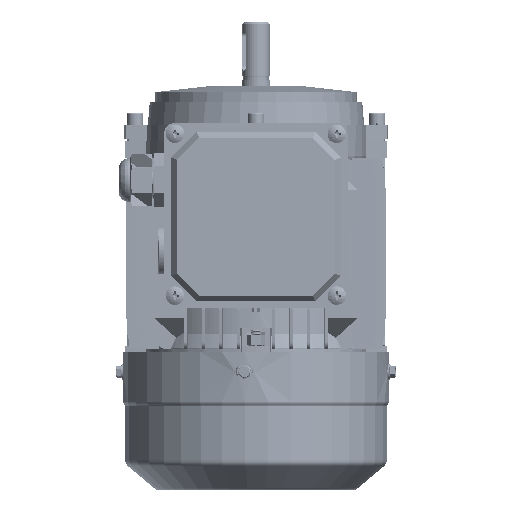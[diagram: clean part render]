
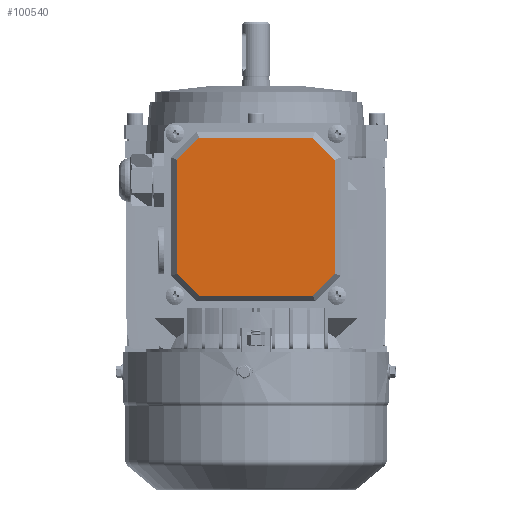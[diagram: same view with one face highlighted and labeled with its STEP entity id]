
A CAD part, left-side view. The second image highlights one B-rep face of the part: STEP entity #100540.
In plain terms, the highlighted planar face has unit normal (-1, 0, 0) as drawn and (0, 1, 0) by its records, which use the part's own axes.
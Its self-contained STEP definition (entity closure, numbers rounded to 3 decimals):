
#630 = VERTEX_POINT ( 'NONE', #71626 ) ;
#637 = CARTESIAN_POINT ( 'NONE',  ( -34.825, 6., -34.825 ) ) ;
#1685 = VECTOR ( 'NONE', #29553, 1000. ) ;
#4181 = AXIS2_PLACEMENT_3D ( 'NONE', #78495, #57785, #131467 ) ;
#6516 = ORIENTED_EDGE ( 'NONE', *, *, #45182, .T. ) ;
#12560 = CARTESIAN_POINT ( 'NONE',  ( -40.5, 6., 0. ) ) ;
#18580 = CARTESIAN_POINT ( 'NONE',  ( 40.5, 6., 0. ) ) ;
#18928 = CARTESIAN_POINT ( 'NONE',  ( 34.825, 6., 34.825 ) ) ;
#19312 = ORIENTED_EDGE ( 'NONE', *, *, #56935, .T. ) ;
#24097 = LINE ( 'NONE', #118197, #52209 ) ;
#26364 = VERTEX_POINT ( 'NONE', #89103 ) ;
#27087 = ORIENTED_EDGE ( 'NONE', *, *, #105944, .T. ) ;
#28248 = CARTESIAN_POINT ( 'NONE',  ( 29.15, 6., -40.5 ) ) ;
#28992 = VERTEX_POINT ( 'NONE', #124382 ) ;
#29553 = DIRECTION ( 'NONE',  ( 0.707, 0., -0.707 ) ) ;
#31743 = VECTOR ( 'NONE', #75720, 1000. ) ;
#32922 = EDGE_CURVE ( 'NONE', #33161, #28992, #35835, .T. ) ;
#33161 = VERTEX_POINT ( 'NONE', #28248 ) ;
#35734 = ORIENTED_EDGE ( 'NONE', *, *, #103965, .T. ) ;
#35835 = LINE ( 'NONE', #118634, #113396 ) ;
#36309 = LINE ( 'NONE', #18928, #1685 ) ;
#38707 = VERTEX_POINT ( 'NONE', #121475 ) ;
#44465 = DIRECTION ( 'NONE',  ( 0.707, 0., 0.707 ) ) ;
#44681 = EDGE_CURVE ( 'NONE', #26364, #33161, #47520, .T. ) ;
#45182 = EDGE_CURVE ( 'NONE', #133878, #630, #99968, .T. ) ;
#47166 = PLANE ( 'NONE',  #4181 ) ;
#47252 = VECTOR ( 'NONE', #69276, 1000. ) ;
#47520 = LINE ( 'NONE', #134898, #100214 ) ;
#52209 = VECTOR ( 'NONE', #44465, 1000. ) ;
#54859 = ORIENTED_EDGE ( 'NONE', *, *, #32922, .T. ) ;
#56935 = EDGE_CURVE ( 'NONE', #78999, #133878, #24097, .T. ) ;
#57785 = DIRECTION ( 'NONE',  ( 0., -1., 0. ) ) ;
#58432 = EDGE_CURVE ( 'NONE', #28992, #38707, #112853, .T. ) ;
#66398 = LINE ( 'NONE', #12560, #31743 ) ;
#67616 = VERTEX_POINT ( 'NONE', #125785 ) ;
#69276 = DIRECTION ( 'NONE',  ( 1., 0., 0. ) ) ;
#69857 = CARTESIAN_POINT ( 'NONE',  ( -40.5, 6., 29.15 ) ) ;
#71626 = CARTESIAN_POINT ( 'NONE',  ( 29.15, 6., 40.5 ) ) ;
#73559 = ORIENTED_EDGE ( 'NONE', *, *, #44681, .T. ) ;
#74439 = DIRECTION ( 'NONE',  ( -0.707, 0., 0.707 ) ) ;
#75720 = DIRECTION ( 'NONE',  ( 0., 0., 1. ) ) ;
#77394 = VECTOR ( 'NONE', #92318, 1000. ) ;
#78184 = VECTOR ( 'NONE', #74439, 1000. ) ;
#78495 = CARTESIAN_POINT ( 'NONE',  ( 0., 6., 0. ) ) ;
#78999 = VERTEX_POINT ( 'NONE', #69857 ) ;
#87231 = DIRECTION ( 'NONE',  ( -1., 0., 0. ) ) ;
#89103 = CARTESIAN_POINT ( 'NONE',  ( 40.5, 6., -29.15 ) ) ;
#92318 = DIRECTION ( 'NONE',  ( 0., 0., -1. ) ) ;
#96069 = EDGE_CURVE ( 'NONE', #38707, #78999, #66398, .T. ) ;
#97635 = ORIENTED_EDGE ( 'NONE', *, *, #96069, .T. ) ;
#99754 = EDGE_LOOP ( 'NONE', ( #27087, #35734, #73559, #54859, #128195, #97635, #19312, #6516 ) ) ;
#99968 = LINE ( 'NONE', #132414, #47252 ) ;
#100214 = VECTOR ( 'NONE', #103012, 1000. ) ;
#100540 = ADVANCED_FACE ( 'NONE', ( #104331 ), #47166, .F. ) ;
#102089 = LINE ( 'NONE', #18580, #77394 ) ;
#103012 = DIRECTION ( 'NONE',  ( -0.707, 0., -0.707 ) ) ;
#103965 = EDGE_CURVE ( 'NONE', #67616, #26364, #102089, .T. ) ;
#104331 = FACE_OUTER_BOUND ( 'NONE', #99754, .T. ) ;
#105944 = EDGE_CURVE ( 'NONE', #630, #67616, #36309, .T. ) ;
#112853 = LINE ( 'NONE', #637, #78184 ) ;
#113396 = VECTOR ( 'NONE', #87231, 1000. ) ;
#113895 = CARTESIAN_POINT ( 'NONE',  ( -29.15, 6., 40.5 ) ) ;
#118197 = CARTESIAN_POINT ( 'NONE',  ( -34.825, 6., 34.825 ) ) ;
#118634 = CARTESIAN_POINT ( 'NONE',  ( 0., 6., -40.5 ) ) ;
#121475 = CARTESIAN_POINT ( 'NONE',  ( -40.5, 6., -29.15 ) ) ;
#124382 = CARTESIAN_POINT ( 'NONE',  ( -29.15, 6., -40.5 ) ) ;
#125785 = CARTESIAN_POINT ( 'NONE',  ( 40.5, 6., 29.15 ) ) ;
#128195 = ORIENTED_EDGE ( 'NONE', *, *, #58432, .T. ) ;
#131467 = DIRECTION ( 'NONE',  ( 0., 0., -1. ) ) ;
#132414 = CARTESIAN_POINT ( 'NONE',  ( 0., 6., 40.5 ) ) ;
#133878 = VERTEX_POINT ( 'NONE', #113895 ) ;
#134898 = CARTESIAN_POINT ( 'NONE',  ( 34.825, 6., -34.825 ) ) ;
